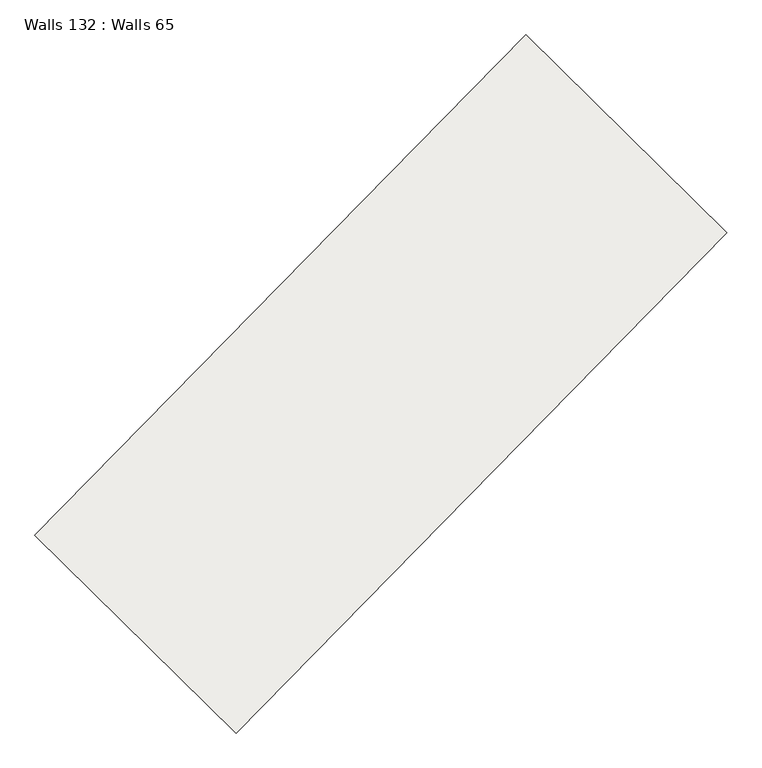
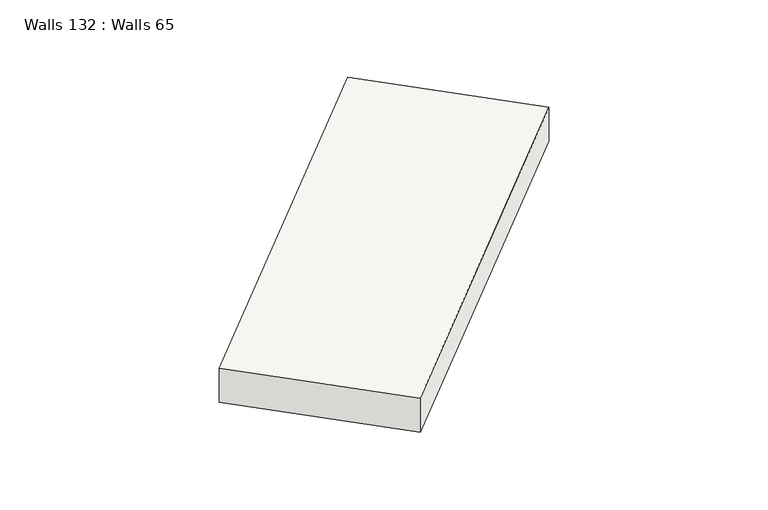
"""IFC4 building model written with IfcOpenShell, lengths in millimetres: slab geometry, Walls 132 : Walls 65."""

from ifc_helpers import new_model, si_unit, frame, origin, place, context, project, spatial, polyline, outline, extrude, source, transform, mapped, element, save


def walls_132_walls_65_a349da4c(model_context):
    return source(origin(), model_context, "Body", "SweptSolid", [
        extrude(outline(polyline([(-350.0, 0.0), (350.0, 0.0), (260.0, -8699.9999996), (-440.0, -8699.9999996), (-350.0, 0.0)])), frame((12165.6482614, -146805.0984975, 638620.0), z_axis=(-0.7137361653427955, 0.7004146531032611, 0.0), x_axis=(0.0, 0.0, 1.0)), (0.0, 0.0, 1.0), 3499.999995),
    ])


if __name__ == "__main__":
    model = new_model("IFC4")
    model_context = context("Model", 3, world=origin())
    ifc_project = project(units=[si_unit("LENGTHUNIT", "METRE", prefix="MILLI")], contexts=[model_context])
    site = spatial("IfcSite", under=ifc_project)
    building = spatial("IfcBuilding", under=site)
    placement = place(None, origin())
    walls_132_walls_65_shape = walls_132_walls_65_a349da4c(model_context)
    element("IfcSlab", 1, ObjectType="Walls 132 : Walls 65", at=placement, inside=building, context=model_context, shape_type="MappedRepresentation", body=[
        mapped(walls_132_walls_65_shape, transform((0.0, 0.0, 0.0), x_axis=(1.0, 0.0, 0.0), y_axis=(0.0, 1.0, 0.0), z_axis=(0.0, 0.0, 1.0))),
    ])
    save(model, "model.ifc")
